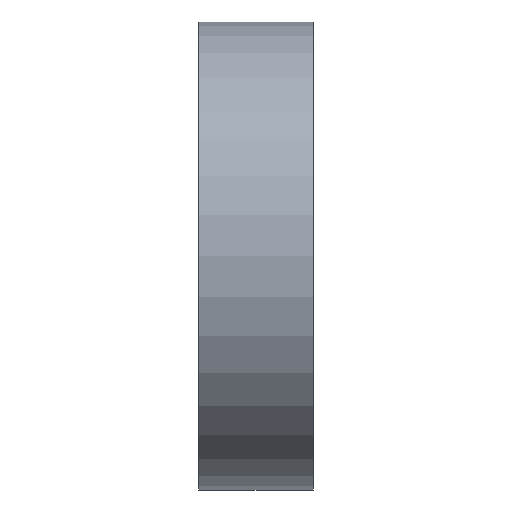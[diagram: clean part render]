
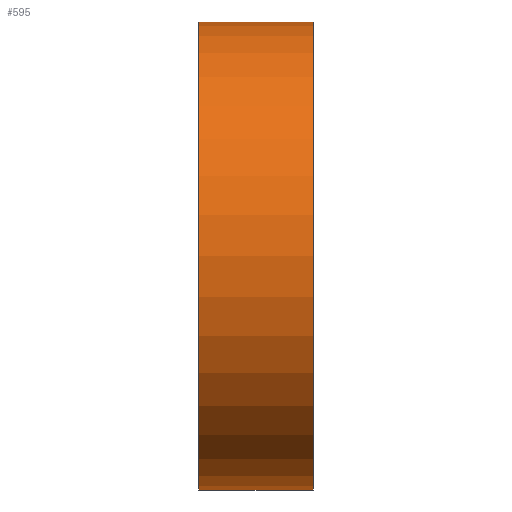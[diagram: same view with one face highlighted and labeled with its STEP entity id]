
A CAD part, front view. The second image highlights one B-rep face of the part: STEP entity #595.
In plain terms, the highlighted cylindrical face has radius 20.35 mm (diameter 40.7 mm), a full revolution.
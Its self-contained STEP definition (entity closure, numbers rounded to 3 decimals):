
#568=CARTESIAN_POINT('',(0.,0.,0.));
#569=DIRECTION('',(1.0,0.,0.));
#570=DIRECTION('',(0.0,0.0,1.0));
#571=AXIS2_PLACEMENT_3D('',#568,#569,#570);
#572=CYLINDRICAL_SURFACE('',#571,20.35);
#573=CARTESIAN_POINT('',(10.,0.,-20.35));
#574=VERTEX_POINT('',#573);
#575=CARTESIAN_POINT('',(10.,0.,0.));
#576=DIRECTION('',(-1.0,0.0,0.0));
#577=DIRECTION('',(0.0,0.0,1.0));
#578=AXIS2_PLACEMENT_3D('',#575,#576,#577);
#579=CIRCLE('',#578,20.35);
#580=EDGE_CURVE('',#574,#574,#579,.T.);
#581=ORIENTED_EDGE('',*,*,#580,.T.);
#582=EDGE_LOOP('',(#581));
#583=FACE_OUTER_BOUND('',#582,.T.);
#584=CARTESIAN_POINT('',(0.,0.,-20.35));
#585=VERTEX_POINT('',#584);
#586=CARTESIAN_POINT('',(0.,0.,0.));
#587=DIRECTION('',(-1.0,0.0,0.0));
#588=DIRECTION('',(0.0,0.0,1.0));
#589=AXIS2_PLACEMENT_3D('',#586,#587,#588);
#590=CIRCLE('',#589,20.35);
#591=EDGE_CURVE('',#585,#585,#590,.T.);
#592=ORIENTED_EDGE('',*,*,#591,.F.);
#593=EDGE_LOOP('',(#592));
#594=FACE_BOUND('',#593,.T.);
#595=ADVANCED_FACE('',(#583,#594),#572,.T.);
